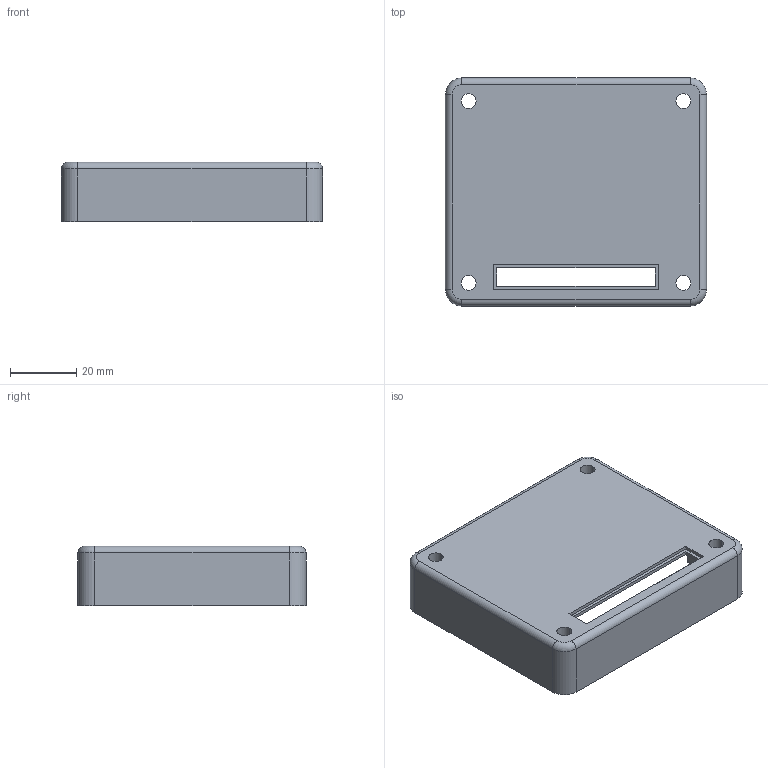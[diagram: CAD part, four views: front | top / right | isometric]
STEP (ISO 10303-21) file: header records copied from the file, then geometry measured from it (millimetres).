
FILE_DESCRIPTION (( 'STEP AP203' ), '1' );
FILE_NAME ('Caixa Valk-Boss-Extrude2 step203.STEP', '2023-12-12T02:44:53', ( '' ), ( '' ), 'SwSTEP 2.0', 'SolidWorks 2023', '' );
FILE_SCHEMA (( 'CONFIG_CONTROL_DESIGN' ));
Length unit declared in the file: millimetre
Products named in the file (1): Caixa Valk-Boss-Extrude2 step203
Bounding box: 79 x 69 x 18 mm (x, y, z)
Volume: 20814.8 mm3; surface area: 21649.3 mm2
Topology: 1 solids, 1 shells, 63 faces, 160 edges, 104 vertices
Faces by surface type: cylinder 32, plane 27, torus 4
Entity records: 2019 total; most frequent: DIRECTION 356, CARTESIAN_POINT 328, ORIENTED_EDGE 320, EDGE_CURVE 160, AXIS2_PLACEMENT_3D 132, VERTEX_POINT 104, VECTOR 92, LINE 92
